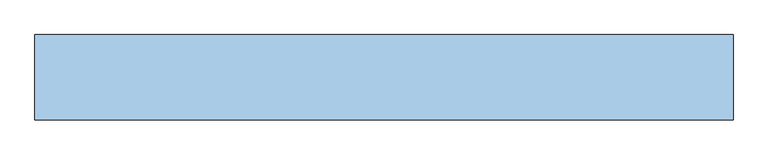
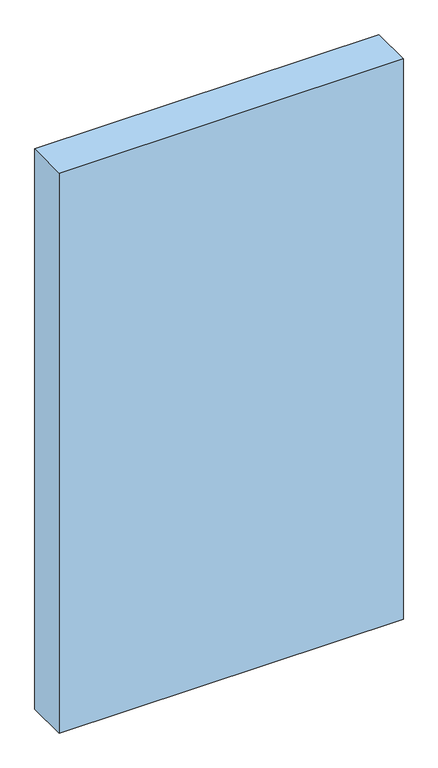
"""IFC4 building model written with IfcOpenShell, lengths in millimetres: window geometry, Dr_Проем-Четверти_об модель : ОК."""

from ifc_helpers import new_model, si_unit, frame, origin, place, context, project, spatial, polyline, outline, extrude, source, transform, mapped, element, save


def window_52353b70(model_context):
    return source(origin(), model_context, "Body", "SweptSolid", [
        extrude(outline(polyline([(955.0, 100.0), (955.0, -100.0), (-685.0, -100.0), (-685.0, 100.0), (955.0, 100.0)])), frame((0.0, 0.0, -100.0), z_axis=(0.0, 0.0, 1.0), x_axis=(1.0, 0.0, 0.0)), (0.0, 0.0, 1.0), 2820.0),
    ])


if __name__ == "__main__":
    model = new_model("IFC4")
    model_context = context("Model", 3, world=origin())
    ifc_project = project(units=[si_unit("LENGTHUNIT", "METRE", prefix="MILLI")], contexts=[model_context])
    site = spatial("IfcSite", under=ifc_project)
    building = spatial("IfcBuilding", under=site)
    placement = place(None, origin())
    window_shape = window_52353b70(model_context)
    element("IfcWindow", 1, ObjectType="Dr_Проем-Четверти_об модель : ОК", at=placement, inside=building, context=model_context, shape_type="MappedRepresentation", body=[
        mapped(window_shape, transform((0.0, 0.0, 0.0), x_axis=(1.0, 0.0, 0.0), y_axis=(0.0, 1.0, 0.0), z_axis=(0.0, 0.0, 1.0))),
    ])
    save(model, "model.ifc")
